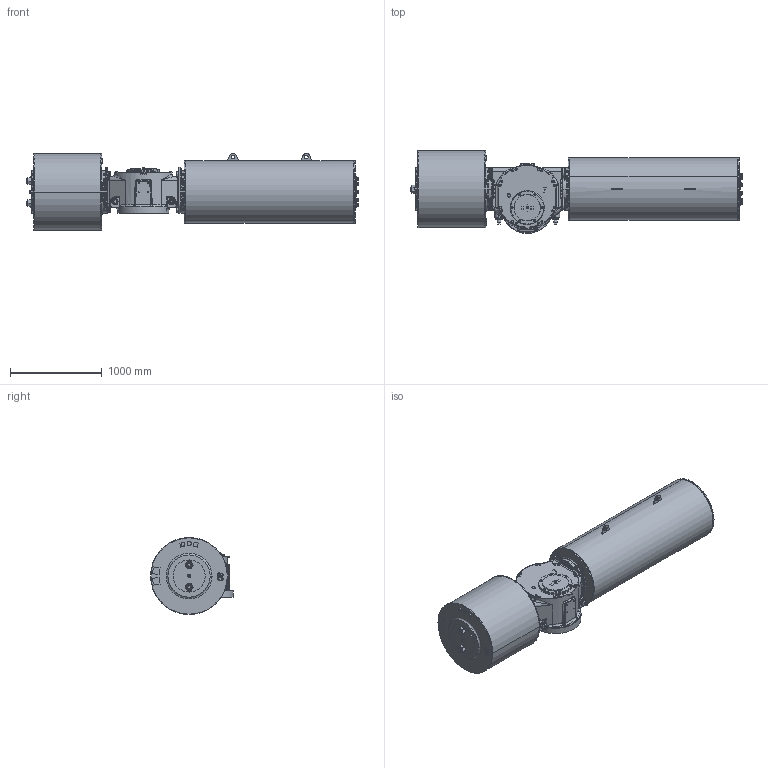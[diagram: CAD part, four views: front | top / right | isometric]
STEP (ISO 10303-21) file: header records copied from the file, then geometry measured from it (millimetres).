
FILE_DESCRIPTION (( 'STEP AP203' ), '1' );
FILE_NAME ('VTS7-800-SR-FC.STEP', '2023-01-01T10:07:48', ( '' ), ( '' ), 'SwSTEP 2.0', 'SolidWorks 2020', '' );
FILE_SCHEMA (( 'CONFIG_CONTROL_DESIGN' ));
Length unit declared in the file: millimetre
Products named in the file (1): VTS7-800-SR-FC
Bounding box: 3619.22 x 902.5 x 839.5 mm (x, y, z)
Volume: 1278753302.2 mm3; surface area: 11482699.9 mm2
Topology: 54 solids, 62 shells, 3517 faces, 8487 edges, 5183 vertices
Faces by surface type: cylinder 1208, plane 1106, cone 826, bspline 362, torus 15
Entity records: 130230 total; most frequent: CARTESIAN_POINT 50188, DIRECTION 16923, ORIENTED_EDGE 16690, EDGE_CURVE 8345, AXIS2_PLACEMENT_3D 6836, VERTEX_POINT 5183, EDGE_LOOP 3884, CIRCLE 3680
